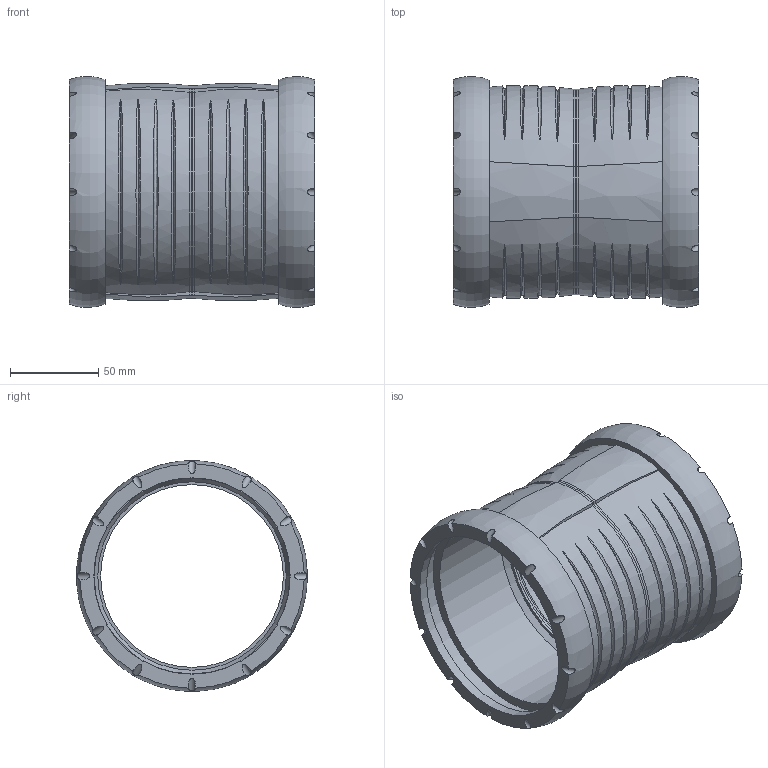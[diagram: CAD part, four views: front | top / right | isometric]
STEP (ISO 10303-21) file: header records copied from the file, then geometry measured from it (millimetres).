
FILE_DESCRIPTION(/* description */ (''),/* implementation_level */ '2;1');
FILE_NAME(/* name */ 'H:\Geberit-Teile\Export\Doppelsteckmuffe\stp\393516.stp',/* time_stamp */ '2017-02-14T08:58:22+01:00',/* author */ ('seihe2'),/* organization */ (''),/* preprocessor_version */ 'ST-DEVELOPER v15.2',/* originating_system */ 'Autodesk Inventor 2014',/* authorisation */ '');
FILE_SCHEMA (('AUTOMOTIVE_DESIGN { 1 0 10303 214 3 1 1 }'));
Length unit declared in the file: millimetre
Products named in the file (1): 393516
Bounding box: 139 x 130.87 x 130.91 mm (x, y, z)
Volume: 268285.3 mm3; surface area: 128999.1 mm2
Topology: 2 solids, 2 shells, 108 faces, 258 edges, 178 vertices
Faces by surface type: bspline 56, cylinder 36, plane 12, torus 2, cone 2
Full cylindrical faces by diameter (mm): 103.6 x2, 111 x2, 111.3 x2, 121.5 x2
Entity records: 7763 total; most frequent: CARTESIAN_POINT 5545, ORIENTED_EDGE 480, DIRECTION 306, EDGE_CURVE 240, VERTEX_POINT 172, EDGE_LOOP 148, AXIS2_PLACEMENT_3D 145, B_SPLINE_CURVE_WITH_KNOTS 132
